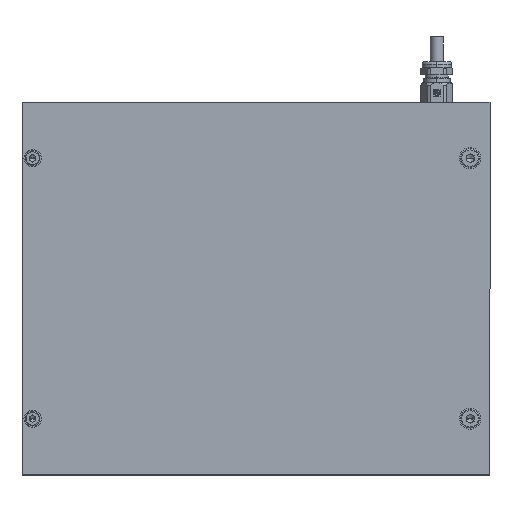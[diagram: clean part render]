
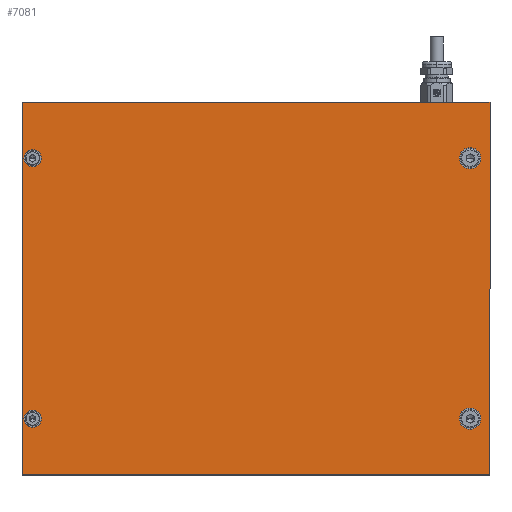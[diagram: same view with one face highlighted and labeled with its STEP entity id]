
A CAD part, top view. The second image highlights one B-rep face of the part: STEP entity #7081.
In plain terms, the highlighted planar face has unit normal (0, 0, 1) as drawn and (0, -1, 0) by its records, which use the part's own axes.
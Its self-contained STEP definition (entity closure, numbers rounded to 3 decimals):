
#5 = DIRECTION ( 'NONE',  ( 0., -1., 0. ) ) ;
#8 = CARTESIAN_POINT ( 'NONE',  ( -80.5, 0., -49. ) ) ;
#77 = CARTESIAN_POINT ( 'NONE',  ( 88., 0., 70. ) ) ;
#120 = CIRCLE ( 'NONE', #2031, 3.25 ) ;
#221 = CARTESIAN_POINT ( 'NONE',  ( 84., 0., -52.25 ) ) ;
#287 = CARTESIAN_POINT ( 'NONE',  ( -88., 0., 70. ) ) ;
#290 = CIRCLE ( 'NONE', #4936, 3.25 ) ;
#316 = CARTESIAN_POINT ( 'NONE',  ( -80.5, 0., 45. ) ) ;
#438 = DIRECTION ( 'NONE',  ( 0., 0., -1. ) ) ;
#815 = CARTESIAN_POINT ( 'NONE',  ( -80.5, 0., 49. ) ) ;
#928 = DIRECTION ( 'NONE',  ( 0., 0., -1. ) ) ;
#952 = FACE_BOUND ( 'NONE', #4527, .T. ) ;
#1047 = ORIENTED_EDGE ( 'NONE', *, *, #4656, .F. ) ;
#1159 = AXIS2_PLACEMENT_3D ( 'NONE', #5434, #8472, #3548 ) ;
#1220 = VERTEX_POINT ( 'NONE', #3183 ) ;
#1307 = AXIS2_PLACEMENT_3D ( 'NONE', #6058, #8984, #12150 ) ;
#1309 = CARTESIAN_POINT ( 'NONE',  ( -88., 0., 70. ) ) ;
#1345 = DIRECTION ( 'NONE',  ( 1., 0., 0. ) ) ;
#1396 = ORIENTED_EDGE ( 'NONE', *, *, #3218, .F. ) ;
#1418 = DIRECTION ( 'NONE',  ( 0., 0., 1. ) ) ;
#1508 = EDGE_LOOP ( 'NONE', ( #2685, #9379 ) ) ;
#1541 = EDGE_LOOP ( 'NONE', ( #2812, #2963, #2240, #3293 ) ) ;
#1572 = CIRCLE ( 'NONE', #1159, 4. ) ;
#1582 = EDGE_CURVE ( 'NONE', #2575, #6427, #5065, .T. ) ;
#1690 = EDGE_CURVE ( 'NONE', #11295, #10711, #2185, .T. ) ;
#1711 = VECTOR ( 'NONE', #1418, 1000. ) ;
#1850 = DIRECTION ( 'NONE',  ( 0., 0., -1. ) ) ;
#2031 = AXIS2_PLACEMENT_3D ( 'NONE', #5855, #5, #9897 ) ;
#2148 = CIRCLE ( 'NONE', #6962, 4. ) ;
#2165 = DIRECTION ( 'NONE',  ( 0., -1., 0. ) ) ;
#2185 = CIRCLE ( 'NONE', #7006, 4. ) ;
#2240 = ORIENTED_EDGE ( 'NONE', *, *, #1582, .F. ) ;
#2315 = EDGE_CURVE ( 'NONE', #1220, #2893, #1572, .T. ) ;
#2575 = VERTEX_POINT ( 'NONE', #3262 ) ;
#2656 = CIRCLE ( 'NONE', #6412, 3.25 ) ;
#2685 = ORIENTED_EDGE ( 'NONE', *, *, #2315, .F. ) ;
#2719 = LINE ( 'NONE', #12470, #8669 ) ;
#2812 = ORIENTED_EDGE ( 'NONE', *, *, #6867, .F. ) ;
#2893 = VERTEX_POINT ( 'NONE', #4288 ) ;
#2935 = FACE_BOUND ( 'NONE', #7031, .T. ) ;
#2963 = ORIENTED_EDGE ( 'NONE', *, *, #6299, .F. ) ;
#2998 = DIRECTION ( 'NONE',  ( 0., 0., -1. ) ) ;
#3088 = ORIENTED_EDGE ( 'NONE', *, *, #6468, .F. ) ;
#3128 = FACE_OUTER_BOUND ( 'NONE', #1541, .T. ) ;
#3183 = CARTESIAN_POINT ( 'NONE',  ( -80.5, 0., -53. ) ) ;
#3218 = EDGE_CURVE ( 'NONE', #9089, #3764, #290, .T. ) ;
#3226 = VERTEX_POINT ( 'NONE', #1309 ) ;
#3262 = CARTESIAN_POINT ( 'NONE',  ( 88., 0., 70. ) ) ;
#3293 = ORIENTED_EDGE ( 'NONE', *, *, #11386, .F. ) ;
#3548 = DIRECTION ( 'NONE',  ( 0., 0., -1. ) ) ;
#3558 = VERTEX_POINT ( 'NONE', #221 ) ;
#3678 = DIRECTION ( 'NONE',  ( 0., -1., 0. ) ) ;
#3764 = VERTEX_POINT ( 'NONE', #9705 ) ;
#3781 = EDGE_LOOP ( 'NONE', ( #3812, #6880 ) ) ;
#3812 = ORIENTED_EDGE ( 'NONE', *, *, #7018, .F. ) ;
#4026 = CIRCLE ( 'NONE', #5261, 3.25 ) ;
#4028 = CARTESIAN_POINT ( 'NONE',  ( -80.5, 0., 49. ) ) ;
#4095 = DIRECTION ( 'NONE',  ( 0., -1., 0. ) ) ;
#4261 = CIRCLE ( 'NONE', #4466, 4. ) ;
#4288 = CARTESIAN_POINT ( 'NONE',  ( -80.5, 0., -45. ) ) ;
#4369 = DIRECTION ( 'NONE',  ( 0., -1., 0. ) ) ;
#4466 = AXIS2_PLACEMENT_3D ( 'NONE', #8, #4369, #11211 ) ;
#4527 = EDGE_LOOP ( 'NONE', ( #12113, #1047 ) ) ;
#4647 = VERTEX_POINT ( 'NONE', #7051 ) ;
#4656 = EDGE_CURVE ( 'NONE', #4647, #3558, #120, .T. ) ;
#4689 = CARTESIAN_POINT ( 'NONE',  ( -88., 0., -70. ) ) ;
#4835 = DIRECTION ( 'NONE',  ( 0., -1., 0. ) ) ;
#4875 = DIRECTION ( 'NONE',  ( 0., 0., -1. ) ) ;
#4936 = AXIS2_PLACEMENT_3D ( 'NONE', #11252, #2165, #438 ) ;
#5065 = LINE ( 'NONE', #5841, #8252 ) ;
#5261 = AXIS2_PLACEMENT_3D ( 'NONE', #7038, #11920, #928 ) ;
#5434 = CARTESIAN_POINT ( 'NONE',  ( -80.5, 0., -49. ) ) ;
#5841 = CARTESIAN_POINT ( 'NONE',  ( 88., 0., 70. ) ) ;
#5855 = CARTESIAN_POINT ( 'NONE',  ( 84., 0., -49. ) ) ;
#6058 = CARTESIAN_POINT ( 'NONE',  ( 0., 0., 0. ) ) ;
#6102 = EDGE_CURVE ( 'NONE', #2893, #1220, #4261, .T. ) ;
#6299 = EDGE_CURVE ( 'NONE', #6427, #9137, #2719, .T. ) ;
#6412 = AXIS2_PLACEMENT_3D ( 'NONE', #12699, #3678, #9854 ) ;
#6427 = VERTEX_POINT ( 'NONE', #6898 ) ;
#6468 = EDGE_CURVE ( 'NONE', #3764, #9089, #4026, .T. ) ;
#6645 = CARTESIAN_POINT ( 'NONE',  ( 84., 0., 52.25 ) ) ;
#6679 = VECTOR ( 'NONE', #1345, 1000. ) ;
#6862 = CARTESIAN_POINT ( 'NONE',  ( -80.5, 0., 53. ) ) ;
#6867 = EDGE_CURVE ( 'NONE', #9137, #3226, #10308, .T. ) ;
#6880 = ORIENTED_EDGE ( 'NONE', *, *, #1690, .F. ) ;
#6898 = CARTESIAN_POINT ( 'NONE',  ( 88., 0., -70. ) ) ;
#6962 = AXIS2_PLACEMENT_3D ( 'NONE', #815, #4835, #2998 ) ;
#6988 = FACE_BOUND ( 'NONE', #1508, .T. ) ;
#7006 = AXIS2_PLACEMENT_3D ( 'NONE', #4028, #4095, #1850 ) ;
#7018 = EDGE_CURVE ( 'NONE', #10711, #11295, #2148, .T. ) ;
#7031 = EDGE_LOOP ( 'NONE', ( #3088, #1396 ) ) ;
#7038 = CARTESIAN_POINT ( 'NONE',  ( 84., 0., 49. ) ) ;
#7051 = CARTESIAN_POINT ( 'NONE',  ( 84., 0., -45.75 ) ) ;
#7057 = FACE_BOUND ( 'NONE', #3781, .T. ) ;
#7081 = ADVANCED_FACE ( 'NONE', ( #2935, #952, #7057, #6988, #3128 ), #8122, .F. ) ;
#8122 = PLANE ( 'NONE',  #1307 ) ;
#8248 = LINE ( 'NONE', #77, #6679 ) ;
#8252 = VECTOR ( 'NONE', #4875, 1000. ) ;
#8472 = DIRECTION ( 'NONE',  ( 0., -1., 0. ) ) ;
#8669 = VECTOR ( 'NONE', #12727, 1000. ) ;
#8984 = DIRECTION ( 'NONE',  ( 0., 1., 0. ) ) ;
#9089 = VERTEX_POINT ( 'NONE', #6645 ) ;
#9137 = VERTEX_POINT ( 'NONE', #4689 ) ;
#9379 = ORIENTED_EDGE ( 'NONE', *, *, #6102, .F. ) ;
#9705 = CARTESIAN_POINT ( 'NONE',  ( 84., 0., 45.75 ) ) ;
#9854 = DIRECTION ( 'NONE',  ( 0., 0., -1. ) ) ;
#9897 = DIRECTION ( 'NONE',  ( 0., 0., -1. ) ) ;
#9906 = EDGE_CURVE ( 'NONE', #3558, #4647, #2656, .T. ) ;
#10308 = LINE ( 'NONE', #287, #1711 ) ;
#10711 = VERTEX_POINT ( 'NONE', #316 ) ;
#11211 = DIRECTION ( 'NONE',  ( 0., 0., -1. ) ) ;
#11252 = CARTESIAN_POINT ( 'NONE',  ( 84., 0., 49. ) ) ;
#11295 = VERTEX_POINT ( 'NONE', #6862 ) ;
#11386 = EDGE_CURVE ( 'NONE', #3226, #2575, #8248, .T. ) ;
#11920 = DIRECTION ( 'NONE',  ( 0., -1., 0. ) ) ;
#12113 = ORIENTED_EDGE ( 'NONE', *, *, #9906, .F. ) ;
#12150 = DIRECTION ( 'NONE',  ( 0., 0., 1. ) ) ;
#12470 = CARTESIAN_POINT ( 'NONE',  ( 88., 0., -70. ) ) ;
#12699 = CARTESIAN_POINT ( 'NONE',  ( 84., 0., -49. ) ) ;
#12727 = DIRECTION ( 'NONE',  ( -1., 0., 0. ) ) ;
